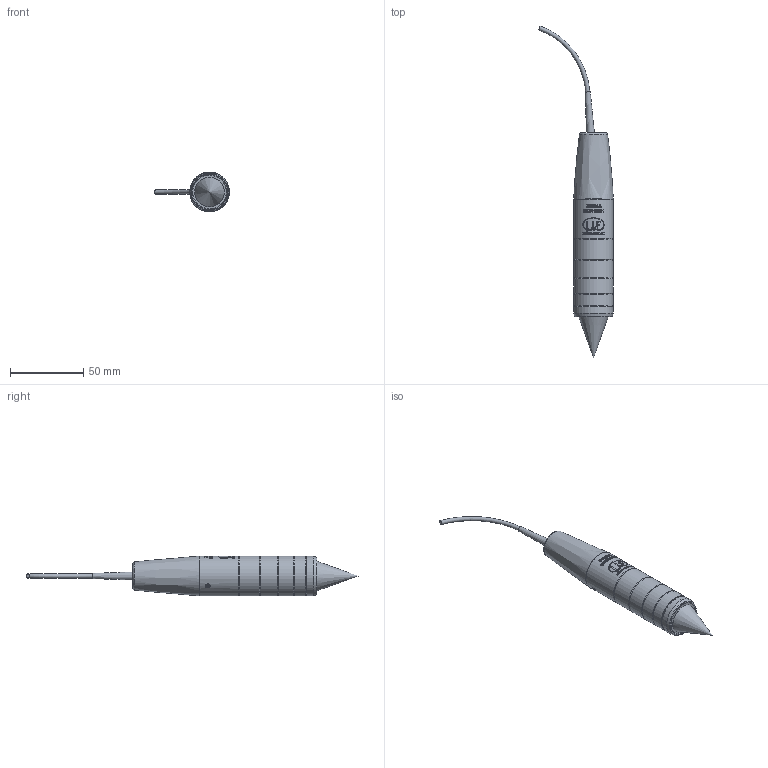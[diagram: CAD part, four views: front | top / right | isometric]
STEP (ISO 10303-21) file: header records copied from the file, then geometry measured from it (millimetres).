
FILE_DESCRIPTION (( 'STEP AP214' ), '1' );
FILE_NAME ('IFS2404-3_2.STEP', '2023-05-02T11:52:20', ( '' ), ( '' ), 'SwSTEP 2.0', 'SolidWorks 2020', '' );
FILE_SCHEMA (( 'AUTOMOTIVE_DESIGN' ));
Length unit declared in the file: millimetre
Products named in the file (4): 101192_000; 105141_000; Kopie von Teil19^105053_000; IFS2404-3_2
Assembly tree (3 placements, depth 2):
  IFS2404-3_2
    101192_000
    Kopie von Teil19^105053_000
    105141_000
Bounding box: 50.87 x 226.22 x 27 mm (x, y, z)
Volume: 35369.8 mm3; surface area: 36218.1 mm2
Topology: 19 solids, 19 shells, 318 faces, 1035 edges, 819 vertices
Faces by surface type: cylinder 117, plane 117, cone 51, torus 20, sphere 7, bspline 6
Full cylindrical faces by diameter (mm): 0.05 x1, 1 x1, 1.6 x4, 2 x2, 2.5 x4, 2.9 x2, 3 x2, 3.8 x2, 4 x1, 4.5 x1, 5.9 x1, 6 x3, 7 x1, 7.25 x1, 8 x1, 9.2 x1, 10 x1, 12 x1, 14 x1, 19 x1, 20 x2, 21 x1, 22.4 x1, 22.5 x1, 22.92 x2, 23 x2, 23.2 x1, 23.5 x1, 24 x1, 24.1 x1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
Entity records: 18805 total; most frequent: CARTESIAN_POINT 7030, ORIENTED_EDGE 1676, DIRECTION 1431, EDGE_CURVE 838, VERTEX_POINT 763, AXIS2_PLACEMENT_3D 606, EDGE_LOOP 547, FACE_OUTER_BOUND 402
